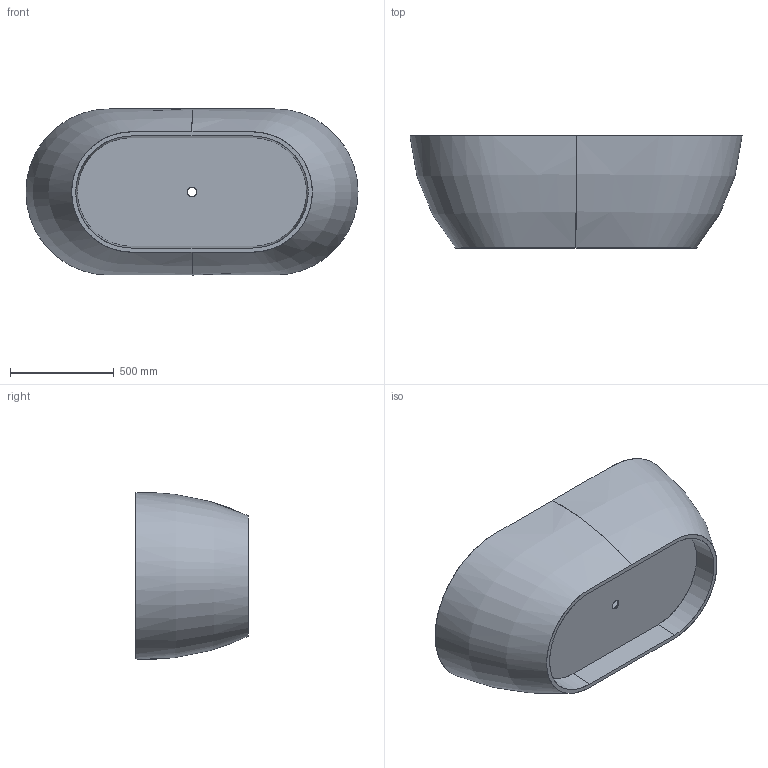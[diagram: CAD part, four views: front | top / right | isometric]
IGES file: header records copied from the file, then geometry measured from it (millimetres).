
Start section: SolidWorks IGES file using analytic representation for surfaces
Global section: file name: C:\Documents and Settings\Administrator\袤醱\igs跡宒\bs-s17.IGS; native system: SolidWorks 2010; preprocessor: SolidWorks 2010; author: Administrator; date: 100728.103515; units: millimetre
Bounding box: 1600 x 540 x 800.96 mm (x, y, z)
Surface area: 5328031.4 mm2 (no closed solid volume)
Topology: 0 solids, 0 shells, 29 faces, 1076 edges, 1076 vertices
Faces by surface type: bspline 20, revolution 9
